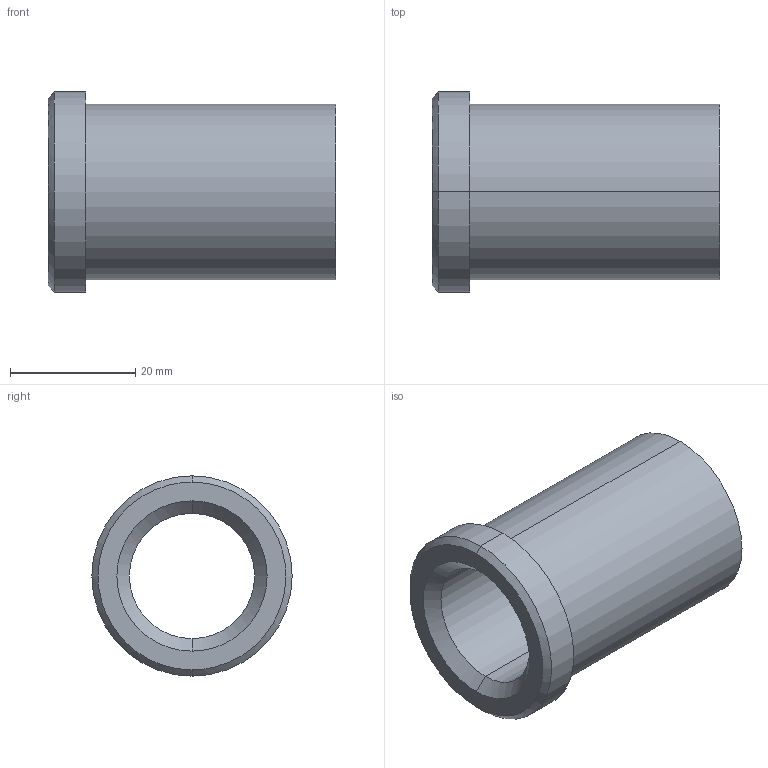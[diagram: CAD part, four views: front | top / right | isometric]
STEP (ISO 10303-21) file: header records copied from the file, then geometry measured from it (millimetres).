
FILE_DESCRIPTION(('CATIA V5 STEP Exchange'),'2;1');
FILE_NAME('C:\Users\Utente\Desktop\IO LAVORO\3D X SITO CF\X SITO\PLASTICA\353\353-20X46.stp','2021-05-11T14:49:54+00:00',('none'),('none'),'CATIA Version 5 Release 20 GA (IN-10)','CATIA V5 STEP AP203','none');
FILE_SCHEMA(('CONFIG_CONTROL_DESIGN'));
Length unit declared in the file: millimetre
Products named in the file (1): 353-20X46
Bounding box: 46 x 32 x 32 mm (x, y, z)
Volume: 14789.6 mm3; surface area: 7824.2 mm2
Topology: 1 solids, 1 shells, 15 faces, 48 edges, 36 vertices
Faces by surface type: cylinder 6, cone 4, plane 3, torus 2
Entity records: 680 total; most frequent: CARTESIAN_POINT 212, ORIENTED_EDGE 96, DIRECTION 70, EDGE_CURVE 48, AXIS2_PLACEMENT_3D 46, VERTEX_POINT 36, CIRCLE 30, EDGE_LOOP 18
